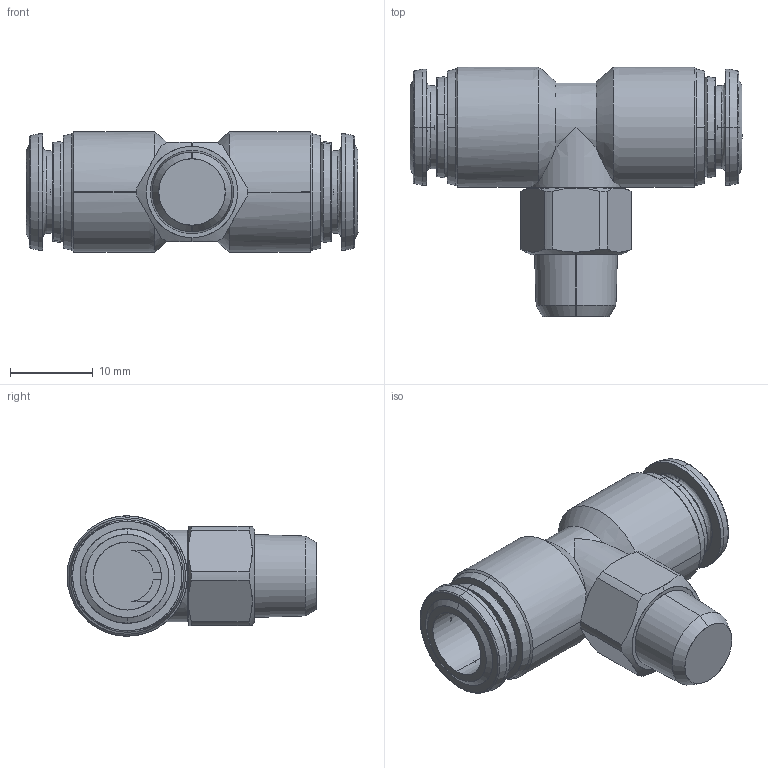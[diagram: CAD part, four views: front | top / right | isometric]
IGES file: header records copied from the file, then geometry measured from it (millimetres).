
Start section: SolidWorks IGES file using analytic representation for surfaces
Global section: file name: C:\Users\cad07\Desktop\desktop\Desktop\VARI\60000X step\60210X\60210X0005.IGS; native system: SolidWorks 2020; preprocessor: SolidWorks 2020; author: cad07; date: 240417.152238; units: millimetre
Bounding box: 40 x 30.1 x 14.5 mm (x, y, z)
Surface area: 3944.9 mm2 (no closed solid volume)
Topology: 0 solids, 0 shells, 163 faces, 2000 edges, 2000 vertices
Faces by surface type: revolution 92, bspline 71
